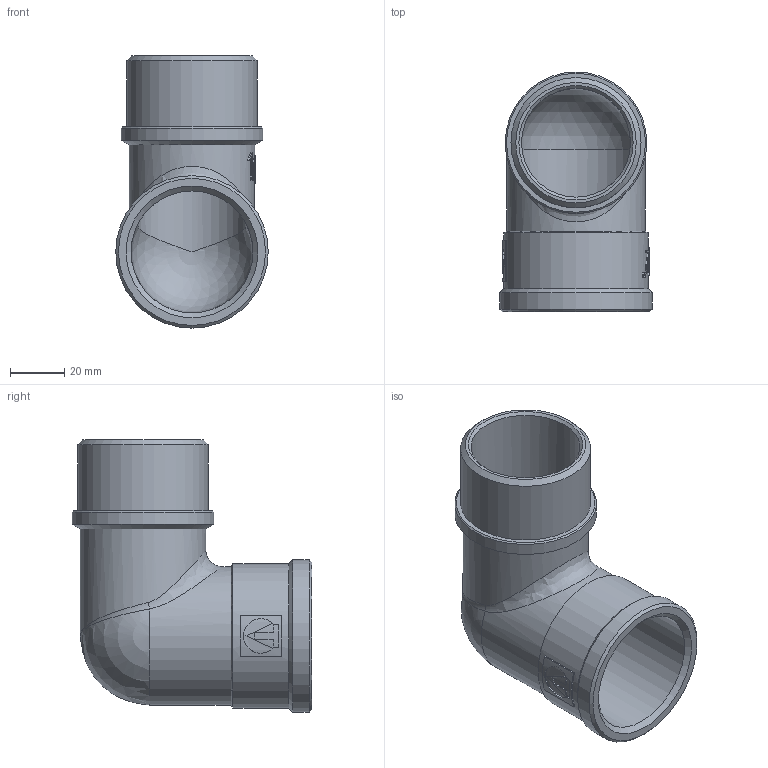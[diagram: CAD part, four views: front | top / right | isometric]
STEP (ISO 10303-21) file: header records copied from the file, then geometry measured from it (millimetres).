
FILE_DESCRIPTION(('STEP AP203'), '1');
FILE_NAME('ÂÐ.752218.006 - VTr.092.N.0008 - Ôèò. ðåçüá. óãîë', '2024-07-09T08:51:52', ('Boss'), (''), 'C3D Converter', 'C3D Toolkit', '');
FILE_SCHEMA(('CONFIG_CONTROL_DESIGN'));
Length unit declared in the file: millimetre
Products named in the file (1): ВР.752218.006
Bounding box: 56 x 88 x 100 mm (x, y, z)
Volume: 68965.8 mm3; surface area: 39599.3 mm2
Topology: 1 solids, 1 shells, 246 faces, 682 edges, 448 vertices
Faces by surface type: extrusion 138, plane 71, cylinder 24, cone 8, bspline 3, sphere 2
Full cylindrical faces by diameter (mm): 40 x1, 44.8 x1, 46 x1, 47.803 x1, 50.8 x1, 52 x1, 53 x1, 56 x1
Entity records: 13089 total; most frequent: CARTESIAN_POINT 7667, ORIENTED_EDGE 1320, DIRECTION 675, EDGE_CURVE 660, VERTEX_POINT 448, B_SPLINE_CURVE_WITH_KNOTS 428, VECTOR 373, EDGE_LOOP 280
